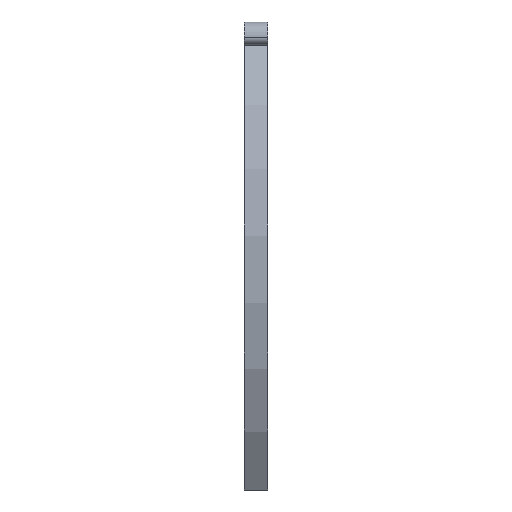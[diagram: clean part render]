
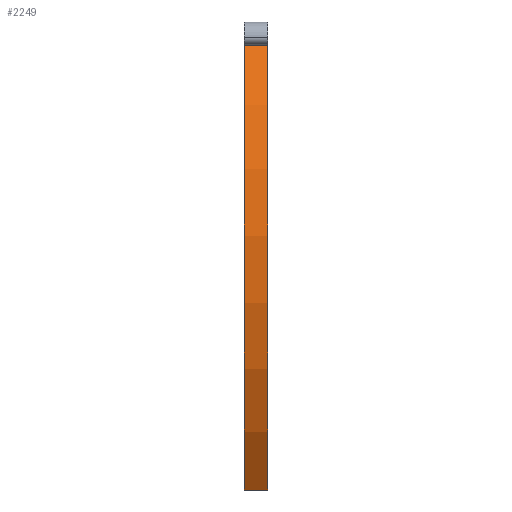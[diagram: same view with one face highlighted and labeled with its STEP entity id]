
A CAD part, front view. The second image highlights one B-rep face of the part: STEP entity #2249.
In plain terms, the highlighted cylindrical face has radius 52.921 mm (diameter 105.841 mm), a partial arc.
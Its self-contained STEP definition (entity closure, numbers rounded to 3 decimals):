
#41 = ORIENTED_EDGE ( 'NONE', *, *, #267, .T. ) ;
#95 = DIRECTION ( 'NONE',  ( 1., 0., 0. ) ) ;
#231 = EDGE_CURVE ( 'NONE', #2696, #1498, #2304, .T. ) ;
#267 = EDGE_CURVE ( 'NONE', #2594, #2696, #404, .T. ) ;
#360 = CARTESIAN_POINT ( 'NONE',  ( -74.046, -25.955, 0. ) ) ;
#404 = LINE ( 'NONE', #360, #2049 ) ;
#455 = ORIENTED_EDGE ( 'NONE', *, *, #231, .T. ) ;
#590 = CARTESIAN_POINT ( 'NONE',  ( -71.046, 17.292, 30.5 ) ) ;
#869 = DIRECTION ( 'NONE',  ( 0., 0., 1. ) ) ;
#897 = CARTESIAN_POINT ( 'NONE',  ( -74.046, 17.292, 30.5 ) ) ;
#909 = CARTESIAN_POINT ( 'NONE',  ( -71.046, -25.955, 0. ) ) ;
#958 = AXIS2_PLACEMENT_3D ( 'NONE', #897, #2844, #1198 ) ;
#980 = CARTESIAN_POINT ( 'NONE',  ( -74.046, 17.292, 30.5 ) ) ;
#981 = ORIENTED_EDGE ( 'NONE', *, *, #1814, .F. ) ;
#1044 = ORIENTED_EDGE ( 'NONE', *, *, #1370, .F. ) ;
#1123 = CARTESIAN_POINT ( 'NONE',  ( -74.046, -25.955, 0. ) ) ;
#1198 = DIRECTION ( 'NONE',  ( 0., 0., -1. ) ) ;
#1313 = CYLINDRICAL_SURFACE ( 'NONE', #958, 52.921 ) ;
#1370 = EDGE_CURVE ( 'NONE', #2594, #2979, #2819, .T. ) ;
#1498 = VERTEX_POINT ( 'NONE', #2381 ) ;
#1626 = FACE_OUTER_BOUND ( 'NONE', #2789, .T. ) ;
#1629 = LINE ( 'NONE', #2146, #3226 ) ;
#1775 = DIRECTION ( 'NONE',  ( 0., 0., 1. ) ) ;
#1814 = EDGE_CURVE ( 'NONE', #2979, #1498, #1629, .T. ) ;
#2049 = VECTOR ( 'NONE', #95, 1000. ) ;
#2050 = AXIS2_PLACEMENT_3D ( 'NONE', #980, #2255, #1775 ) ;
#2146 = CARTESIAN_POINT ( 'NONE',  ( -74.046, -27.922, 58. ) ) ;
#2249 = ADVANCED_FACE ( 'NONE', ( #1626 ), #1313, .T. ) ;
#2255 = DIRECTION ( 'NONE',  ( -1., 0., 0. ) ) ;
#2304 = CIRCLE ( 'NONE', #3496, 52.921 ) ;
#2381 = CARTESIAN_POINT ( 'NONE',  ( -71.046, -27.922, 58. ) ) ;
#2437 = DIRECTION ( 'NONE',  ( 1., 0., 0. ) ) ;
#2513 = DIRECTION ( 'NONE',  ( -1., 0., 0. ) ) ;
#2594 = VERTEX_POINT ( 'NONE', #1123 ) ;
#2696 = VERTEX_POINT ( 'NONE', #909 ) ;
#2789 = EDGE_LOOP ( 'NONE', ( #455, #981, #1044, #41 ) ) ;
#2819 = CIRCLE ( 'NONE', #2050, 52.921 ) ;
#2844 = DIRECTION ( 'NONE',  ( 1., 0., 0. ) ) ;
#2927 = CARTESIAN_POINT ( 'NONE',  ( -74.046, -27.922, 58. ) ) ;
#2979 = VERTEX_POINT ( 'NONE', #2927 ) ;
#3226 = VECTOR ( 'NONE', #2437, 1000. ) ;
#3496 = AXIS2_PLACEMENT_3D ( 'NONE', #590, #2513, #869 ) ;
